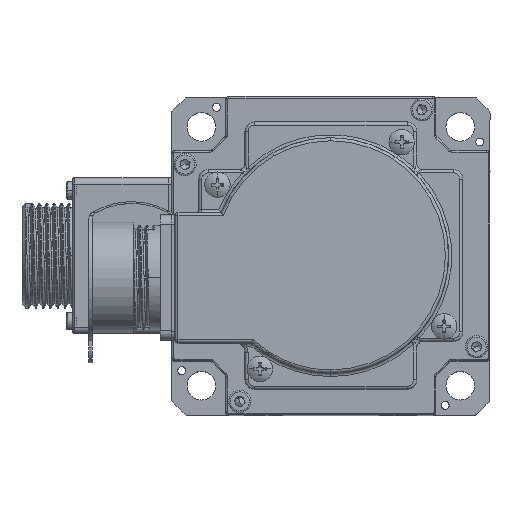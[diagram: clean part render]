
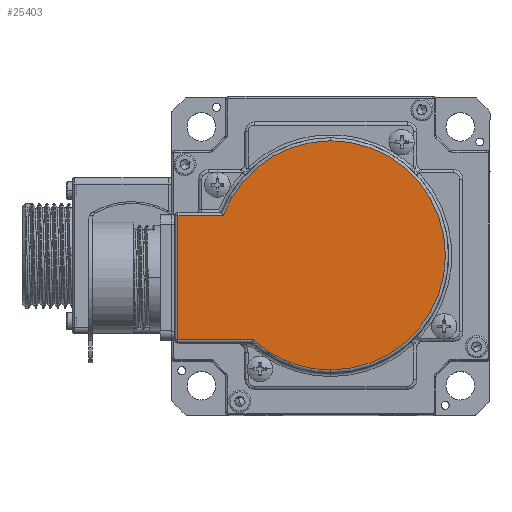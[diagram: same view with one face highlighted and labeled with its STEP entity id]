
A CAD part, top view. The second image highlights one B-rep face of the part: STEP entity #25403.
In plain terms, the highlighted planar face has unit normal (0, 0, 1).
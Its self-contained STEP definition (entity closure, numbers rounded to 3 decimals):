
#1166 = LINE ( 'NONE', #24119, #32759 ) ;
#1366 = EDGE_CURVE ( 'NONE', #1440, #7420, #24770, .T. ) ;
#1440 = VERTEX_POINT ( 'NONE', #20287 ) ;
#1528 = DIRECTION ( 'NONE',  ( 0., 0., 1. ) ) ;
#2386 = ORIENTED_EDGE ( 'NONE', *, *, #28732, .T. ) ;
#2732 = VECTOR ( 'NONE', #11227, 1000. ) ;
#3584 = ORIENTED_EDGE ( 'NONE', *, *, #24777, .T. ) ;
#5532 = CARTESIAN_POINT ( 'NONE',  ( -57.065, -13.801, 49.75 ) ) ;
#7203 = CIRCLE ( 'NONE', #13294, 36. ) ;
#7420 = VERTEX_POINT ( 'NONE', #23549 ) ;
#7699 = VERTEX_POINT ( 'NONE', #30755 ) ;
#9282 = VERTEX_POINT ( 'NONE', #22775 ) ;
#9637 = CARTESIAN_POINT ( 'NONE',  ( -9.065, 12.699, 49.75 ) ) ;
#9735 = DIRECTION ( 'NONE',  ( 0., 1., 0. ) ) ;
#10658 = AXIS2_PLACEMENT_3D ( 'NONE', #9637, #34093, #31376 ) ;
#11227 = DIRECTION ( 'NONE',  ( 1., 0., 0. ) ) ;
#11586 = DIRECTION ( 'NONE',  ( 0., -1., 0. ) ) ;
#11636 = ORIENTED_EDGE ( 'NONE', *, *, #33654, .T. ) ;
#12652 = DIRECTION ( 'NONE',  ( 0., 0., 1. ) ) ;
#13294 = AXIS2_PLACEMENT_3D ( 'NONE', #28760, #12652, #9735 ) ;
#14245 = EDGE_CURVE ( 'NONE', #19342, #9282, #17882, .T. ) ;
#14803 = PLANE ( 'NONE',  #25750 ) ;
#14832 = FACE_OUTER_BOUND ( 'NONE', #15096, .T. ) ;
#15096 = EDGE_LOOP ( 'NONE', ( #2386, #3584, #18657, #16954, #18983, #11636 ) ) ;
#15410 = AXIS2_PLACEMENT_3D ( 'NONE', #26543, #15574, #18434 ) ;
#15574 = DIRECTION ( 'NONE',  ( 0., 0., 1. ) ) ;
#16138 = DIRECTION ( 'NONE',  ( -1., 0., 0. ) ) ;
#16954 = ORIENTED_EDGE ( 'NONE', *, *, #19689, .T. ) ;
#17641 = CARTESIAN_POINT ( 'NONE',  ( -9.065, 12.699, 49.75 ) ) ;
#17882 = LINE ( 'NONE', #26856, #2732 ) ;
#18434 = DIRECTION ( 'NONE',  ( 0., 1., 0. ) ) ;
#18657 = ORIENTED_EDGE ( 'NONE', *, *, #14245, .T. ) ;
#18983 = ORIENTED_EDGE ( 'NONE', *, *, #1366, .T. ) ;
#19342 = VERTEX_POINT ( 'NONE', #5532 ) ;
#19689 = EDGE_CURVE ( 'NONE', #9282, #1440, #7203, .T. ) ;
#20287 = CARTESIAN_POINT ( 'NONE',  ( -9.065, -23.301, 49.75 ) ) ;
#20293 = VECTOR ( 'NONE', #11586, 1000. ) ;
#20324 = DIRECTION ( 'NONE',  ( 0., 1., 0. ) ) ;
#22775 = CARTESIAN_POINT ( 'NONE',  ( -33.432, -13.801, 49.75 ) ) ;
#23549 = CARTESIAN_POINT ( 'NONE',  ( -9.065, 48.699, 49.75 ) ) ;
#24119 = CARTESIAN_POINT ( 'NONE',  ( -58.065, 25.199, 49.75 ) ) ;
#24770 = CIRCLE ( 'NONE', #10658, 36. ) ;
#24777 = EDGE_CURVE ( 'NONE', #31174, #19342, #24916, .T. ) ;
#24916 = LINE ( 'NONE', #27692, #20293 ) ;
#25403 = ADVANCED_FACE ( 'NONE', ( #14832 ), #14803, .T. ) ;
#25750 = AXIS2_PLACEMENT_3D ( 'NONE', #17641, #1528, #20324 ) ;
#25916 = CIRCLE ( 'NONE', #15410, 36. ) ;
#26543 = CARTESIAN_POINT ( 'NONE',  ( -9.065, 12.699, 49.75 ) ) ;
#26856 = CARTESIAN_POINT ( 'NONE',  ( -33.819, -13.801, 49.75 ) ) ;
#27692 = CARTESIAN_POINT ( 'NONE',  ( -57.065, -14.801, 49.75 ) ) ;
#28054 = CARTESIAN_POINT ( 'NONE',  ( -57.065, 25.199, 49.75 ) ) ;
#28732 = EDGE_CURVE ( 'NONE', #7699, #31174, #1166, .T. ) ;
#28760 = CARTESIAN_POINT ( 'NONE',  ( -9.065, 12.699, 49.75 ) ) ;
#30755 = CARTESIAN_POINT ( 'NONE',  ( -42.825, 25.199, 49.75 ) ) ;
#31174 = VERTEX_POINT ( 'NONE', #28054 ) ;
#31376 = DIRECTION ( 'NONE',  ( 0., 1., 0. ) ) ;
#32759 = VECTOR ( 'NONE', #16138, 1000. ) ;
#33654 = EDGE_CURVE ( 'NONE', #7420, #7699, #25916, .T. ) ;
#34093 = DIRECTION ( 'NONE',  ( 0., 0., 1. ) ) ;
